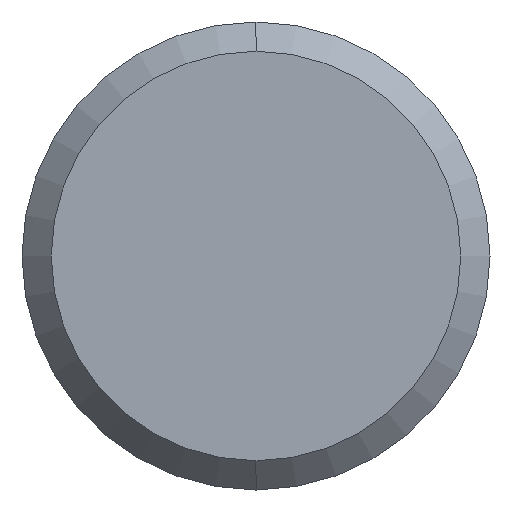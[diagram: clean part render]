
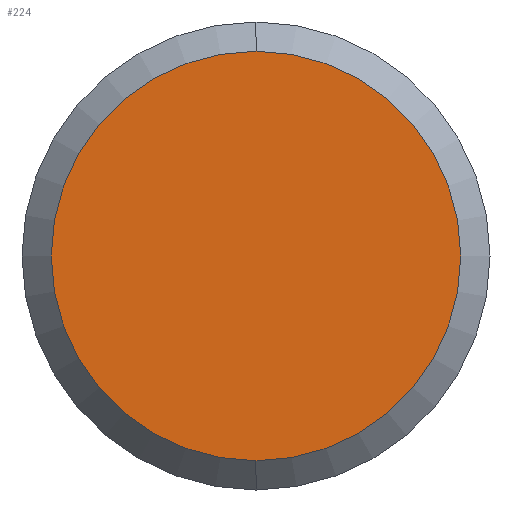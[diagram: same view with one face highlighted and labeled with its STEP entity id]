
A CAD part, left-side view. The second image highlights one B-rep face of the part: STEP entity #224.
In plain terms, the highlighted planar face has unit normal (-1, 0, 0).
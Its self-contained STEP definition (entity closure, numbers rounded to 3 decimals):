
#3 = CARTESIAN_POINT ( 'NONE',  ( 0., 0., 7. ) ) ;
#28 = AXIS2_PLACEMENT_3D ( 'NONE', #390, #133, #244 ) ;
#38 = AXIS2_PLACEMENT_3D ( 'NONE', #239, #400, #55 ) ;
#48 = EDGE_CURVE ( 'NONE', #142, #116, #81, .T. ) ;
#55 = DIRECTION ( 'NONE',  ( 0., 0., 1. ) ) ;
#59 = EDGE_LOOP ( 'NONE', ( #380, #376 ) ) ;
#70 = CARTESIAN_POINT ( 'NONE',  ( 0., 0., 0. ) ) ;
#81 = CIRCLE ( 'NONE', #38, 7. ) ;
#95 = DIRECTION ( 'NONE',  ( 0., 0., 1. ) ) ;
#116 = VERTEX_POINT ( 'NONE', #3 ) ;
#129 = AXIS2_PLACEMENT_3D ( 'NONE', #70, #166, #95 ) ;
#133 = DIRECTION ( 'NONE',  ( 1., 0., 0. ) ) ;
#142 = VERTEX_POINT ( 'NONE', #320 ) ;
#166 = DIRECTION ( 'NONE',  ( -1., 0., 0. ) ) ;
#200 = EDGE_CURVE ( 'NONE', #116, #142, #240, .T. ) ;
#224 = ADVANCED_FACE ( 'NONE', ( #250 ), #393, .F. ) ;
#239 = CARTESIAN_POINT ( 'NONE',  ( 0., 0., 0. ) ) ;
#240 = CIRCLE ( 'NONE', #129, 7. ) ;
#244 = DIRECTION ( 'NONE',  ( 0., 0., -1. ) ) ;
#250 = FACE_OUTER_BOUND ( 'NONE', #59, .T. ) ;
#320 = CARTESIAN_POINT ( 'NONE',  ( 0., 0., -7. ) ) ;
#376 = ORIENTED_EDGE ( 'NONE', *, *, #48, .T. ) ;
#380 = ORIENTED_EDGE ( 'NONE', *, *, #200, .T. ) ;
#390 = CARTESIAN_POINT ( 'NONE',  ( 0., 0., 0. ) ) ;
#393 = PLANE ( 'NONE',  #28 ) ;
#400 = DIRECTION ( 'NONE',  ( -1., 0., 0. ) ) ;
